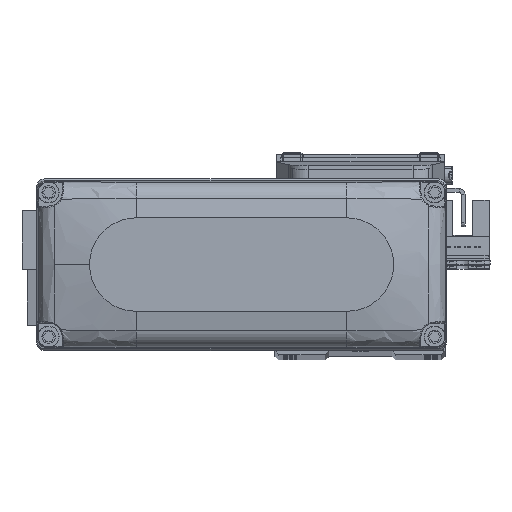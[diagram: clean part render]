
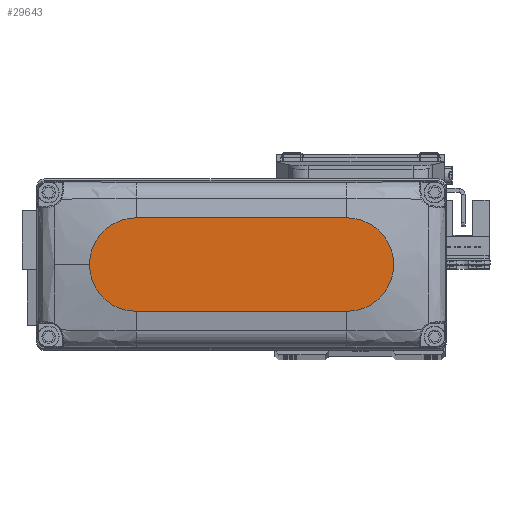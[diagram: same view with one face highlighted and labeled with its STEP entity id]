
A CAD part, top view. The second image highlights one B-rep face of the part: STEP entity #29643.
In plain terms, the highlighted planar face has unit normal (0, 0, 1).
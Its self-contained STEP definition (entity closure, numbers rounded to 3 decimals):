
#202 = ORIENTED_EDGE ( 'NONE', *, *, #1227, .T. ) ;
#1227 = EDGE_CURVE ( 'NONE', #27604, #12041, #13806, .T. ) ;
#1369 = VECTOR ( 'NONE', #27041, 1000. ) ;
#2161 = CARTESIAN_POINT ( 'NONE',  ( 27., 12., 25. ) ) ;
#2272 = LINE ( 'NONE', #14643, #1369 ) ;
#2398 = CIRCLE ( 'NONE', #25079, 12. ) ;
#6837 = AXIS2_PLACEMENT_3D ( 'NONE', #38821, #10999, #23383 ) ;
#7333 = ORIENTED_EDGE ( 'NONE', *, *, #21376, .T. ) ;
#9045 = EDGE_LOOP ( 'NONE', ( #202, #27718, #19769, #7333, #28552 ) ) ;
#9839 = EDGE_CURVE ( 'NONE', #17466, #26768, #2272, .T. ) ;
#10730 = CARTESIAN_POINT ( 'NONE',  ( -27., 0., 25. ) ) ;
#10924 = CARTESIAN_POINT ( 'NONE',  ( 27., 0., 25. ) ) ;
#10999 = DIRECTION ( 'NONE',  ( 0., 0., 1. ) ) ;
#11047 = CARTESIAN_POINT ( 'NONE',  ( 27., 0., 25. ) ) ;
#12041 = VERTEX_POINT ( 'NONE', #31541 ) ;
#12337 = AXIS2_PLACEMENT_3D ( 'NONE', #10730, #23114, #35504 ) ;
#13806 = LINE ( 'NONE', #26196, #17350 ) ;
#14030 = FACE_OUTER_BOUND ( 'NONE', #9045, .T. ) ;
#14476 = CARTESIAN_POINT ( 'NONE',  ( 27., -12., 25. ) ) ;
#14643 = CARTESIAN_POINT ( 'NONE',  ( -27., -12., 25. ) ) ;
#14860 = EDGE_CURVE ( 'NONE', #12041, #17466, #29874, .T. ) ;
#15785 = AXIS2_PLACEMENT_3D ( 'NONE', #11047, #23432, #35827 ) ;
#17350 = VECTOR ( 'NONE', #38578, 1000. ) ;
#17466 = VERTEX_POINT ( 'NONE', #19706 ) ;
#19706 = CARTESIAN_POINT ( 'NONE',  ( -27., -12., 25. ) ) ;
#19769 = ORIENTED_EDGE ( 'NONE', *, *, #9839, .T. ) ;
#21376 = EDGE_CURVE ( 'NONE', #26768, #31447, #33316, .T. ) ;
#23114 = DIRECTION ( 'NONE',  ( 0., 0., 1. ) ) ;
#23311 = DIRECTION ( 'NONE',  ( 0., 0., 1. ) ) ;
#23383 = DIRECTION ( 'NONE',  ( 1., 0., 0. ) ) ;
#23432 = DIRECTION ( 'NONE',  ( 0., 0., 1. ) ) ;
#25079 = AXIS2_PLACEMENT_3D ( 'NONE', #10924, #23311, #35699 ) ;
#26196 = CARTESIAN_POINT ( 'NONE',  ( -27., 12., 25. ) ) ;
#26429 = PLANE ( 'NONE',  #6837 ) ;
#26768 = VERTEX_POINT ( 'NONE', #14476 ) ;
#27041 = DIRECTION ( 'NONE',  ( 1., 0., 0. ) ) ;
#27604 = VERTEX_POINT ( 'NONE', #2161 ) ;
#27718 = ORIENTED_EDGE ( 'NONE', *, *, #14860, .T. ) ;
#28552 = ORIENTED_EDGE ( 'NONE', *, *, #39564, .T. ) ;
#29643 = ADVANCED_FACE ( 'NONE', ( #14030 ), #26429, .T. ) ;
#29874 = CIRCLE ( 'NONE', #12337, 12. ) ;
#30466 = CARTESIAN_POINT ( 'NONE',  ( 39., 0., 25. ) ) ;
#31447 = VERTEX_POINT ( 'NONE', #30466 ) ;
#31541 = CARTESIAN_POINT ( 'NONE',  ( -27., 12., 25. ) ) ;
#33316 = CIRCLE ( 'NONE', #15785, 12. ) ;
#35504 = DIRECTION ( 'NONE',  ( 1., 0., 0. ) ) ;
#35699 = DIRECTION ( 'NONE',  ( 1., 0., 0. ) ) ;
#35827 = DIRECTION ( 'NONE',  ( 1., 0., 0. ) ) ;
#38578 = DIRECTION ( 'NONE',  ( -1., 0., 0. ) ) ;
#38821 = CARTESIAN_POINT ( 'NONE',  ( 0., 0., 25. ) ) ;
#39564 = EDGE_CURVE ( 'NONE', #31447, #27604, #2398, .T. ) ;
